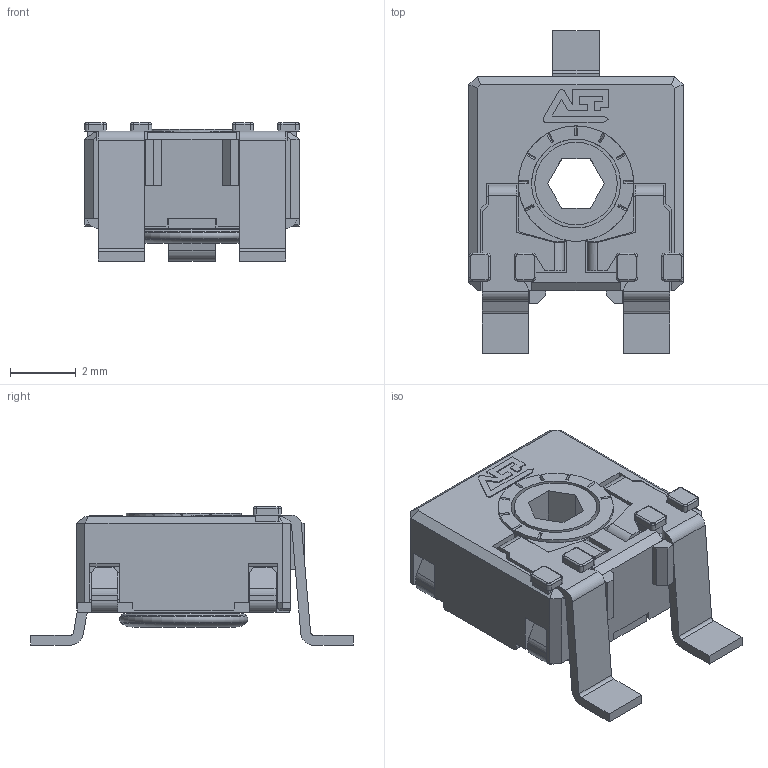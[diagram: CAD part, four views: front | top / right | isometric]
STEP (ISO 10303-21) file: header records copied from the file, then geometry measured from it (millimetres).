
FILE_DESCRIPTION(/* description */ (''),/* implementation_level */ '2;1');
FILE_NAME(/* name */ 'C:\Users\CEM\Desktop\ENVIAR\TRANSICION 3D CATALOGOS\COMCA6MVSMD.stp',/* time_stamp */ '2026-03-20T08:29:03+01:00',/* author */ ('CEM'),/* organization */ (''),/* preprocessor_version */ 'ST-DEVELOPER v16.13',/* originating_system */ 'Autodesk Inventor 2018',/* authorisation */ '');
FILE_SCHEMA (('AUTOMOTIVE_DESIGN { 1 0 10303 214 3 1 1 }'));
Length unit declared in the file: millimetre
Products named in the file (1): CARCASA CA6
Bounding box: 6.5 x 9.8 x 4.2 mm (x, y, z)
Volume: 90.9 mm3; surface area: 385.2 mm2
Topology: 1 solids, 1 shells, 514 faces, 1427 edges, 912 vertices
Faces by surface type: plane 389, cylinder 86, cone 17, bspline 16, torus 6
Full cylindrical faces by diameter (mm): 2.5 x1, 2.7 x1, 2.9 x1, 3.1 x1, 3.5 x1
Entity records: 16368 total; most frequent: CARTESIAN_POINT 3013, ORIENTED_EDGE 2820, DIRECTION 2639, EDGE_CURVE 1409, LINE 1125, VECTOR 1125, VERTEX_POINT 909, AXIS2_PLACEMENT_3D 757
